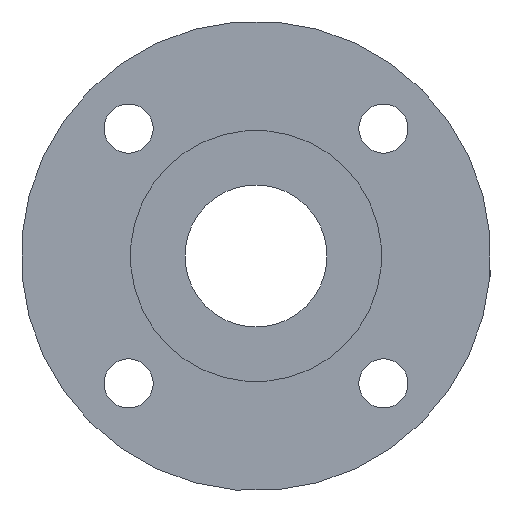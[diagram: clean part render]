
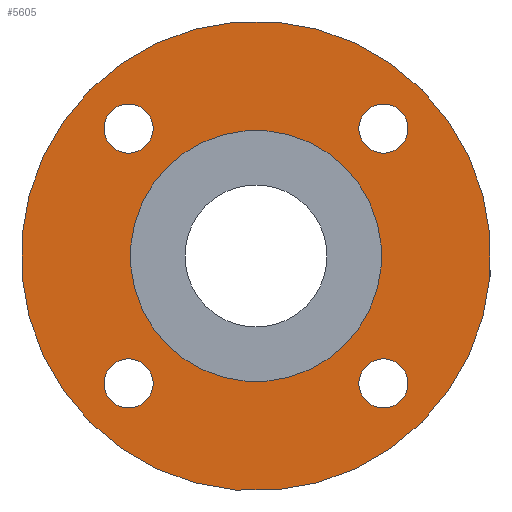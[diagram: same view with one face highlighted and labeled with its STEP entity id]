
A CAD part, left-side view. The second image highlights one B-rep face of the part: STEP entity #5605.
In plain terms, the highlighted planar face has unit normal (-1, 0, 0).
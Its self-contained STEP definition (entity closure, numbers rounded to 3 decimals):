
#112=CIRCLE('',#5961,11.5);
#114=CIRCLE('',#5966,2.25);
#115=CIRCLE('',#5967,2.25);
#116=CIRCLE('',#5968,2.25);
#117=CIRCLE('',#5969,2.25);
#118=CIRCLE('',#5970,21.5);
#1714=ORIENTED_EDGE('',*,*,#3331,.T.);
#1715=ORIENTED_EDGE('',*,*,#3332,.T.);
#1716=ORIENTED_EDGE('',*,*,#3333,.T.);
#1717=ORIENTED_EDGE('',*,*,#3334,.T.);
#1718=ORIENTED_EDGE('',*,*,#3335,.F.);
#1719=ORIENTED_EDGE('',*,*,#3329,.T.);
#3329=EDGE_CURVE('',#4139,#4139,#112,.T.);
#3331=EDGE_CURVE('',#4141,#4141,#114,.T.);
#3332=EDGE_CURVE('',#4142,#4142,#115,.T.);
#3333=EDGE_CURVE('',#4143,#4143,#116,.T.);
#3334=EDGE_CURVE('',#4144,#4144,#117,.T.);
#3335=EDGE_CURVE('',#4145,#4145,#118,.T.);
#4139=VERTEX_POINT('',#8880);
#4141=VERTEX_POINT('',#8887);
#4142=VERTEX_POINT('',#8889);
#4143=VERTEX_POINT('',#8891);
#4144=VERTEX_POINT('',#8893);
#4145=VERTEX_POINT('',#8895);
#4602=EDGE_LOOP('',(#1714));
#4603=EDGE_LOOP('',(#1715));
#4604=EDGE_LOOP('',(#1716));
#4605=EDGE_LOOP('',(#1717));
#4606=EDGE_LOOP('',(#1718));
#4607=EDGE_LOOP('',(#1719));
#5002=FACE_BOUND('',#4602,.T.);
#5003=FACE_BOUND('',#4603,.T.);
#5004=FACE_BOUND('',#4604,.T.);
#5005=FACE_BOUND('',#4605,.T.);
#5006=FACE_BOUND('',#4606,.T.);
#5007=FACE_BOUND('',#4607,.T.);
#5350=PLANE('',#5965);
#5605=ADVANCED_FACE('',(#5002,#5003,#5004,#5005,#5006,#5007),#5350,.F.);
#5961=AXIS2_PLACEMENT_3D('',#8879,#6477,#6478);
#5965=AXIS2_PLACEMENT_3D('',#8885,#6485,#6486);
#5966=AXIS2_PLACEMENT_3D('',#8886,#6487,#6488);
#5967=AXIS2_PLACEMENT_3D('',#8888,#6489,#6490);
#5968=AXIS2_PLACEMENT_3D('',#8890,#6491,#6492);
#5969=AXIS2_PLACEMENT_3D('',#8892,#6493,#6494);
#5970=AXIS2_PLACEMENT_3D('',#8894,#6495,#6496);
#6477=DIRECTION('',(1.,0.,0.));
#6478=DIRECTION('',(0.,0.707,-0.707));
#6485=DIRECTION('',(1.,0.,0.));
#6486=DIRECTION('',(0.,0.707,-0.707));
#6487=DIRECTION('',(1.,0.,0.));
#6488=DIRECTION('',(0.,0.707,-0.707));
#6489=DIRECTION('',(1.,0.,0.));
#6490=DIRECTION('',(0.,0.707,-0.707));
#6491=DIRECTION('',(1.,0.,0.));
#6492=DIRECTION('',(0.,0.707,-0.707));
#6493=DIRECTION('',(1.,0.,0.));
#6494=DIRECTION('',(0.,0.707,-0.707));
#6495=DIRECTION('',(1.,0.,0.));
#6496=DIRECTION('',(0.,0.707,-0.707));
#8879=CARTESIAN_POINT('',(24.5,0.,0.));
#8880=CARTESIAN_POINT('',(24.5,8.132,-8.132));
#8885=CARTESIAN_POINT('',(24.5,0.,0.));
#8886=CARTESIAN_POINT('',(24.5,11.667,-11.667));
#8887=CARTESIAN_POINT('',(24.5,13.258,-13.258));
#8888=CARTESIAN_POINT('',(24.5,-11.667,-11.667));
#8889=CARTESIAN_POINT('',(24.5,-10.076,-13.258));
#8890=CARTESIAN_POINT('',(24.5,-11.667,11.667));
#8891=CARTESIAN_POINT('',(24.5,-10.076,10.076));
#8892=CARTESIAN_POINT('',(24.5,11.667,11.667));
#8893=CARTESIAN_POINT('',(24.5,13.258,10.076));
#8894=CARTESIAN_POINT('',(24.5,0.,0.));
#8895=CARTESIAN_POINT('',(24.5,15.203,-15.203));
